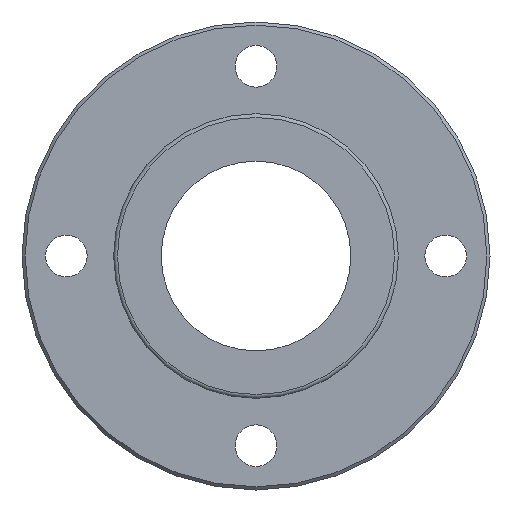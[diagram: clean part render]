
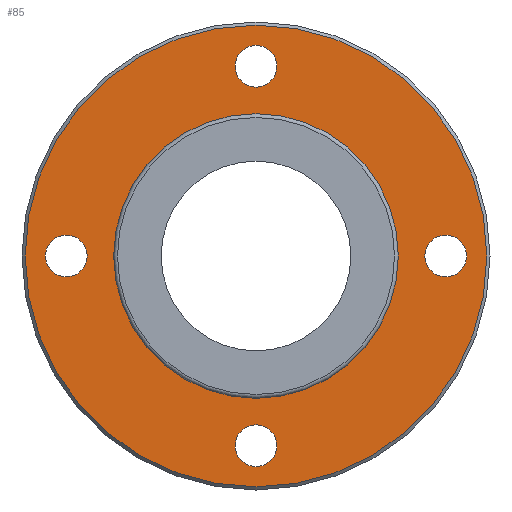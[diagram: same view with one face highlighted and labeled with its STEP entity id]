
A CAD part, left-side view. The second image highlights one B-rep face of the part: STEP entity #85.
In plain terms, the highlighted planar face has unit normal (-1, 0, 0).
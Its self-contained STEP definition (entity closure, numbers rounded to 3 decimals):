
#85=ADVANCED_FACE('',(#134,#135,#136,#137,#138,#139),#140,.T.);
#134=FACE_OUTER_BOUND('',#226,.T.);
#135=FACE_BOUND('',#227,.T.);
#136=FACE_BOUND('',#228,.T.);
#137=FACE_BOUND('',#229,.T.);
#138=FACE_BOUND('',#230,.T.);
#139=FACE_BOUND('',#231,.T.);
#140=PLANE('',#232);
#226=EDGE_LOOP('',(#338));
#227=EDGE_LOOP('',(#339));
#228=EDGE_LOOP('',(#340));
#229=EDGE_LOOP('',(#341));
#230=EDGE_LOOP('',(#342));
#231=EDGE_LOOP('',(#343));
#232=AXIS2_PLACEMENT_3D('',#344,#345,#346);
#338=ORIENTED_EDGE('',*,*,#452,.T.);
#339=ORIENTED_EDGE('',*,*,#453,.F.);
#340=ORIENTED_EDGE('',*,*,#454,.T.);
#341=ORIENTED_EDGE('',*,*,#455,.T.);
#342=ORIENTED_EDGE('',*,*,#451,.T.);
#343=ORIENTED_EDGE('',*,*,#456,.T.);
#344=CARTESIAN_POINT('',(-10.0,29.35,0.));
#345=DIRECTION('',(-1.0,0.0,0.));
#346=DIRECTION('',(0.,0.0,1.0));
#451=EDGE_CURVE('',#498,#498,#499,.T.);
#452=EDGE_CURVE('',#500,#500,#501,.T.);
#453=EDGE_CURVE('',#502,#502,#503,.T.);
#454=EDGE_CURVE('',#504,#504,#505,.T.);
#455=EDGE_CURVE('',#506,#506,#507,.T.);
#456=EDGE_CURVE('',#508,#508,#509,.T.);
#498=VERTEX_POINT('',#562);
#499=CIRCLE('',#563,3.3);
#500=VERTEX_POINT('',#564);
#501=CIRCLE('',#565,36.5);
#502=VERTEX_POINT('',#566);
#503=CIRCLE('',#567,22.2);
#504=VERTEX_POINT('',#568);
#505=CIRCLE('',#569,3.3);
#506=VERTEX_POINT('',#570);
#507=CIRCLE('',#571,3.3);
#508=VERTEX_POINT('',#572);
#509=CIRCLE('',#573,3.3);
#562=CARTESIAN_POINT('',(-10.0,0.,33.3));
#563=AXIS2_PLACEMENT_3D('',#641,#642,#643);
#564=CARTESIAN_POINT('',(-10.0,36.5,0.));
#565=AXIS2_PLACEMENT_3D('',#644,#645,#646);
#566=CARTESIAN_POINT('',(-10.0,22.2,0.));
#567=AXIS2_PLACEMENT_3D('',#647,#648,#649);
#568=CARTESIAN_POINT('',(-10.0,-30.0,3.3));
#569=AXIS2_PLACEMENT_3D('',#650,#651,#652);
#570=CARTESIAN_POINT('',(-10.0,30.0,3.3));
#571=AXIS2_PLACEMENT_3D('',#653,#654,#655);
#572=CARTESIAN_POINT('',(-10.0,0.,-26.7));
#573=AXIS2_PLACEMENT_3D('',#656,#657,#658);
#641=CARTESIAN_POINT('',(-10.0,0.0,30.0));
#642=DIRECTION('',(1.0,0.0,0.));
#643=DIRECTION('',(0.,0.0,-1.0));
#644=CARTESIAN_POINT('',(-10.0,0.0,0.));
#645=DIRECTION('',(-1.0,0.0,0.));
#646=DIRECTION('',(0.0,1.0,0.0));
#647=CARTESIAN_POINT('',(-10.0,0.0,0.));
#648=DIRECTION('',(-1.0,0.0,0.));
#649=DIRECTION('',(0.0,1.0,0.0));
#650=CARTESIAN_POINT('',(-10.0,-30.0,0.));
#651=DIRECTION('',(1.0,0.0,0.));
#652=DIRECTION('',(0.,0.0,-1.0));
#653=CARTESIAN_POINT('',(-10.0,30.0,0.));
#654=DIRECTION('',(1.0,0.0,0.));
#655=DIRECTION('',(0.,0.0,-1.0));
#656=CARTESIAN_POINT('',(-10.0,0.0,-30.0));
#657=DIRECTION('',(1.0,0.0,0.));
#658=DIRECTION('',(0.,0.0,-1.0));
